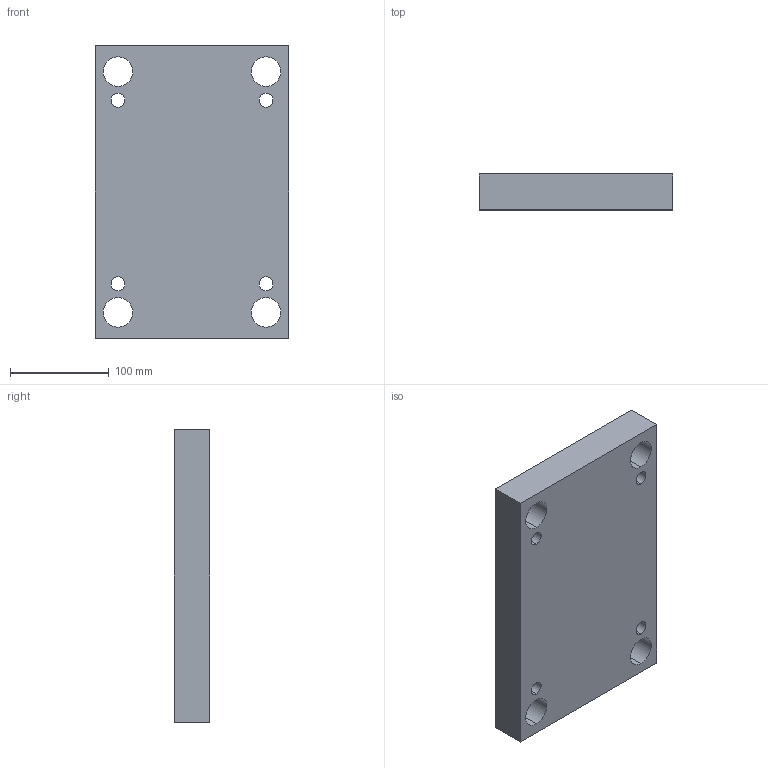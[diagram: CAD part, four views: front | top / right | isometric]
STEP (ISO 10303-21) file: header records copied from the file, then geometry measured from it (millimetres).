
FILE_DESCRIPTION (( 'STEP AP214' ), '1' );
FILE_NAME ('L45_196x296x36.STEP', '2018-10-05T18:39:33', ( '' ), ( '' ), 'SwSTEP 2.0', 'SolidWorks 2014', '' );
FILE_SCHEMA (( 'AUTOMOTIVE_DESIGN' ));
Length unit declared in the file: millimetre
Products named in the file (1): L45_196x296x36
Bounding box: 196 x 36 x 296 mm (x, y, z)
Volume: 1964621.3 mm3; surface area: 164474.8 mm2
Topology: 1 solids, 1 shells, 22 faces, 60 edges, 40 vertices
Faces by surface type: cylinder 16, plane 6
Entity records: 782 total; most frequent: DIRECTION 138, CARTESIAN_POINT 123, ORIENTED_EDGE 120, EDGE_CURVE 60, AXIS2_PLACEMENT_3D 55, VERTEX_POINT 40, EDGE_LOOP 38, CIRCLE 32
